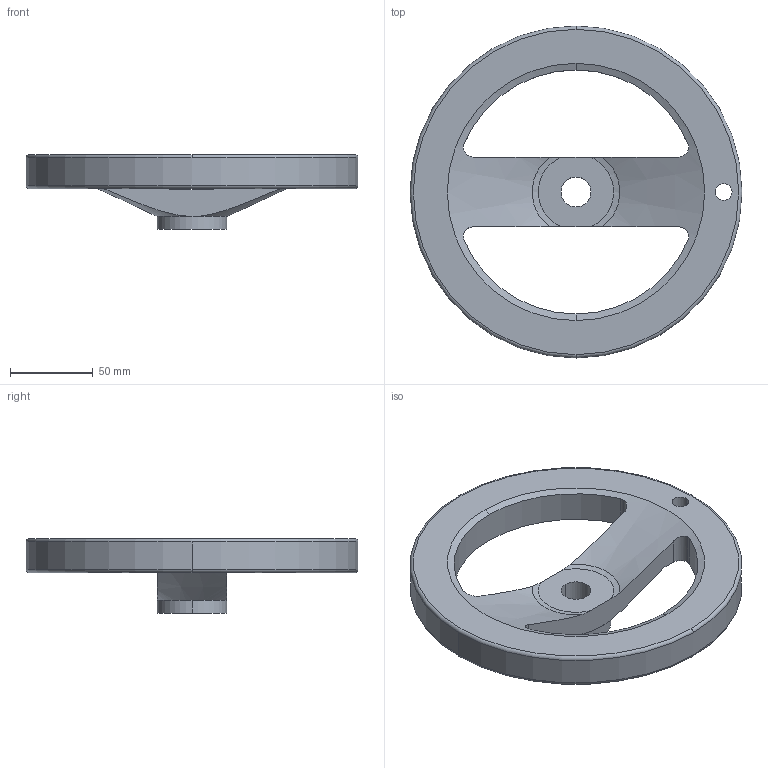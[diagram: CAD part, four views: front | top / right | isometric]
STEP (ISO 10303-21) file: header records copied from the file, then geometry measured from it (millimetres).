
FILE_DESCRIPTION (( 'STEP AP203' ), '1' );
FILE_NAME ('al2sp200.STEP', '2021-10-21T07:31:49', ( '' ), ( '' ), 'SwSTEP 2.0', 'SolidWorks 2020', '' );
FILE_SCHEMA (( 'CONFIG_CONTROL_DESIGN' ));
Length unit declared in the file: millimetre
Products named in the file (1): al2sp200
Bounding box: 200 x 200 x 45 mm (x, y, z)
Volume: 387671.7 mm3; surface area: 66944.1 mm2
Topology: 1 solids, 1 shells, 33 faces, 94 edges, 61 vertices
Faces by surface type: cylinder 16, plane 6, cone 5, torus 4, bspline 2
Entity records: 1510 total; most frequent: CARTESIAN_POINT 560, ORIENTED_EDGE 188, DIRECTION 185, EDGE_CURVE 94, AXIS2_PLACEMENT_3D 79, VERTEX_POINT 61, CIRCLE 47, EDGE_LOOP 39
